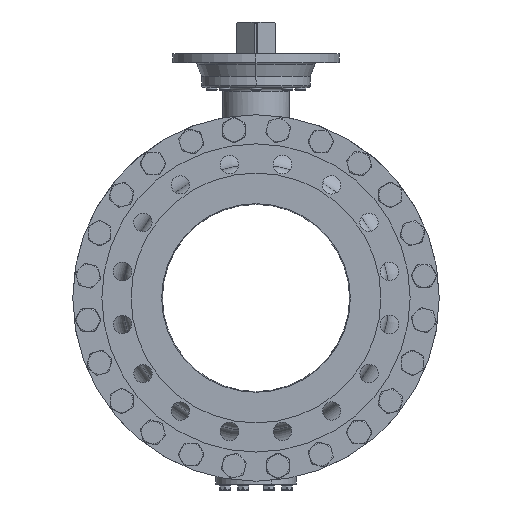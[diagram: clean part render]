
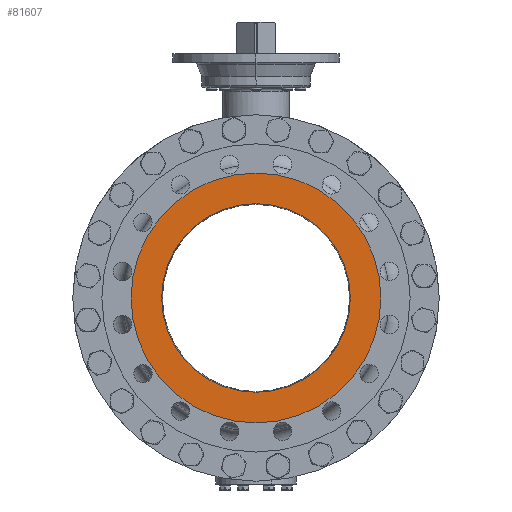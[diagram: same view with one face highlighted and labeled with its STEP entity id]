
A CAD part, left-side view. The second image highlights one B-rep face of the part: STEP entity #81607.
In plain terms, the highlighted planar face has unit normal (-1, 0, 0).
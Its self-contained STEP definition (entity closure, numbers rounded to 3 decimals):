
#11719=CARTESIAN_POINT('',(-343.,0.,0.));
#11720=DIRECTION('',(1.,0.,0.));
#11721=DIRECTION('',(0.,0.,1.));
#11722=AXIS2_PLACEMENT_3D('',#11719,#11720,#11721);
#11724=CARTESIAN_POINT('',(-343.,0.,0.));
#11725=DIRECTION('',(1.,0.,0.));
#11726=DIRECTION('',(0.,0.,-1.));
#11727=AXIS2_PLACEMENT_3D('',#11724,#11725,#11726);
#11729=CARTESIAN_POINT('',(-343.,0.,0.));
#11730=DIRECTION('',(1.,0.,0.));
#11731=DIRECTION('',(0.,0.,1.));
#11732=AXIS2_PLACEMENT_3D('',#11729,#11730,#11731);
#11734=CARTESIAN_POINT('',(-343.,0.,0.));
#11735=DIRECTION('',(-1.,0.,0.));
#11736=DIRECTION('',(0.,0.,1.));
#11737=AXIS2_PLACEMENT_3D('',#11734,#11735,#11736);
#58370=CARTESIAN_POINT('',(-343.,0.,169.8));
#58372=VERTEX_POINT('',#58370);
#58374=CARTESIAN_POINT('',(-343.,0.,-169.8));
#58376=VERTEX_POINT('',#58374);
#58405=CARTESIAN_POINT('',(-343.,0.,225.));
#58406=CARTESIAN_POINT('',(-343.,0.,-225.));
#58407=VERTEX_POINT('',#58405);
#58408=VERTEX_POINT('',#58406);
#81592=CARTESIAN_POINT('',(-343.,0.,0.));
#81593=DIRECTION('',(-1.,0.,0.));
#81594=DIRECTION('',(0.,0.,-1.));
#81595=AXIS2_PLACEMENT_3D('',#81592,#81593,#81594);
#81596=PLANE('',#81595);
#81598=ORIENTED_EDGE('',*,*,#81597,.T.);
#81600=ORIENTED_EDGE('',*,*,#81599,.T.);
#81601=EDGE_LOOP('',(#81598,#81600));
#81602=FACE_OUTER_BOUND('',#81601,.F.);
#81603=ORIENTED_EDGE('',*,*,#81585,.F.);
#81604=ORIENTED_EDGE('',*,*,#81574,.T.);
#81605=EDGE_LOOP('',(#81603,#81604));
#81606=FACE_BOUND('',#81605,.F.);
#81607=ADVANCED_FACE('',(#81602,#81606),#81596,.T.);
#11723=CIRCLE('',#11722,225.);
#11728=CIRCLE('',#11727,225.);
#11733=CIRCLE('',#11732,169.8);
#11738=CIRCLE('',#11737,169.8);
#81574=EDGE_CURVE('',#58372,#58376,#11738,.T.);
#81585=EDGE_CURVE('',#58372,#58376,#11733,.T.);
#81597=EDGE_CURVE('',#58407,#58408,#11723,.T.);
#81599=EDGE_CURVE('',#58408,#58407,#11728,.T.);
